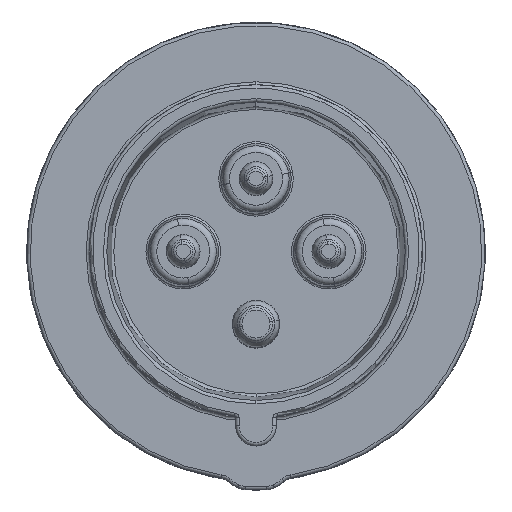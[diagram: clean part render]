
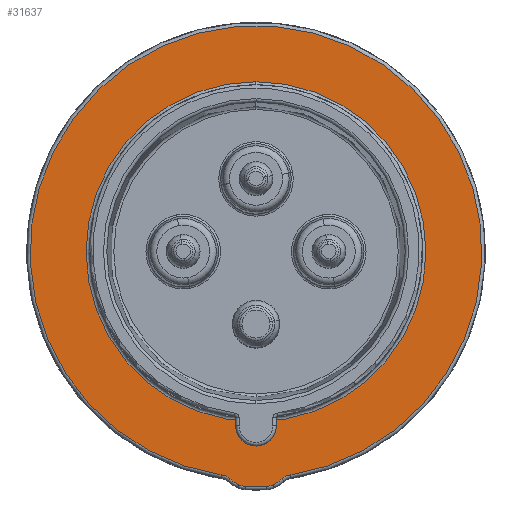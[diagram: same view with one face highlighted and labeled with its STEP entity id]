
A CAD part, top view. The second image highlights one B-rep face of the part: STEP entity #31637.
In plain terms, the highlighted planar face has unit normal (0, 0, 1).
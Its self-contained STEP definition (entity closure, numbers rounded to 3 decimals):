
#1106=CARTESIAN_POINT('',(5.364,-35.269,-36.5));
#1107=DIRECTION('',(0.,0.,1.));
#1108=DIRECTION('',(-0.15,0.989,0.));
#1109=AXIS2_PLACEMENT_3D('',#1106,#1107,#1108);
#1111=CARTESIAN_POINT('',(0.,-29.2,-36.5));
#1112=DIRECTION('',(0.,0.,-1.));
#1113=DIRECTION('',(0.662,-0.749,0.));
#1114=AXIS2_PLACEMENT_3D('',#1111,#1112,#1113);
#1116=CARTESIAN_POINT('',(1.443,-32.168,-36.5));
#1117=DIRECTION('',(0.,0.,-1.));
#1118=DIRECTION('',(0.437,-0.899,0.));
#1119=AXIS2_PLACEMENT_3D('',#1116,#1117,#1118);
#1121=CARTESIAN_POINT('',(0.,0.,-36.5));
#1122=DIRECTION('',(0.,0.,-1.));
#1123=DIRECTION('',(0.045,-0.999,0.));
#1124=AXIS2_PLACEMENT_3D('',#1121,#1122,#1123);
#1126=CARTESIAN_POINT('',(-1.443,-32.168,-36.5));
#1127=DIRECTION('',(0.,0.,-1.));
#1128=DIRECTION('',(-0.045,-0.999,0.));
#1129=AXIS2_PLACEMENT_3D('',#1126,#1127,#1128);
#1131=CARTESIAN_POINT('',(0.,-29.2,-36.5));
#1132=DIRECTION('',(0.,0.,-1.));
#1133=DIRECTION('',(-0.437,-0.899,0.));
#1134=AXIS2_PLACEMENT_3D('',#1131,#1132,#1133);
#1136=CARTESIAN_POINT('',(-5.364,-35.269,-36.5));
#1137=DIRECTION('',(0.,0.,1.));
#1138=DIRECTION('',(0.662,0.749,0.));
#1139=AXIS2_PLACEMENT_3D('',#1136,#1137,#1138);
#1141=CARTESIAN_POINT('',(0.,0.,-36.5));
#1142=DIRECTION('',(0.,0.,-1.));
#1143=DIRECTION('',(-0.15,-0.989,0.));
#1144=AXIS2_PLACEMENT_3D('',#1141,#1142,#1143);
#1146=CARTESIAN_POINT('',(0.,0.,-36.5));
#1147=DIRECTION('',(0.,0.,-1.));
#1148=DIRECTION('',(0.,-1.,0.));
#1149=AXIS2_PLACEMENT_3D('',#1146,#1147,#1148);
#1151=CARTESIAN_POINT('',(0.,0.,-36.5));
#1152=DIRECTION('',(0.,0.,-1.));
#1153=DIRECTION('',(0.,1.,0.));
#1154=AXIS2_PLACEMENT_3D('',#1151,#1152,#1153);
#27160=CARTESIAN_POINT('',(0.,-25.1,-36.5));
#27161=CARTESIAN_POINT('',(0.,25.1,-36.5));
#27162=VERTEX_POINT('',#27160);
#27163=VERTEX_POINT('',#27161);
#27202=CARTESIAN_POINT('',(5.018,-32.996,-36.5));
#27203=CARTESIAN_POINT('',(3.841,-33.546,-36.5));
#27204=VERTEX_POINT('',#27202);
#27205=VERTEX_POINT('',#27203);
#27208=CARTESIAN_POINT('',(2.537,-34.416,-36.5));
#27209=VERTEX_POINT('',#27208);
#27212=CARTESIAN_POINT('',(1.555,-34.665,-36.5));
#27213=VERTEX_POINT('',#27212);
#27216=CARTESIAN_POINT('',(-1.555,-34.665,-36.5));
#27217=VERTEX_POINT('',#27216);
#27220=CARTESIAN_POINT('',(-2.537,-34.416,-36.5));
#27221=VERTEX_POINT('',#27220);
#27224=CARTESIAN_POINT('',(-3.841,-33.546,-36.5));
#27225=VERTEX_POINT('',#27224);
#27228=CARTESIAN_POINT('',(-5.018,-32.996,-36.5));
#27229=VERTEX_POINT('',#27228);
#31610=CARTESIAN_POINT('',(0.,0.,-36.5));
#31611=DIRECTION('',(0.,0.,-1.));
#31612=DIRECTION('',(0.,-1.,0.));
#31613=AXIS2_PLACEMENT_3D('',#31610,#31611,#31612);
#31614=PLANE('45',#31613);
#31616=ORIENTED_EDGE('1772',*,*,#31615,.T.);
#31618=ORIENTED_EDGE('1774',*,*,#31617,.T.);
#31620=ORIENTED_EDGE('1776',*,*,#31619,.T.);
#31622=ORIENTED_EDGE('1778',*,*,#31621,.T.);
#31624=ORIENTED_EDGE('1780',*,*,#31623,.T.);
#31626=ORIENTED_EDGE('1782',*,*,#31625,.T.);
#31628=ORIENTED_EDGE('1784',*,*,#31627,.T.);
#31630=ORIENTED_EDGE('1786',*,*,#31629,.T.);
#31631=EDGE_LOOP('45',(#31616,#31618,#31620,#31622,#31624,#31626,#31628,
#31630));
#31632=FACE_OUTER_BOUND('45',#31631,.F.);
#31633=ORIENTED_EDGE('1749',*,*,#31576,.F.);
#31634=ORIENTED_EDGE('1751',*,*,#31597,.F.);
#31635=EDGE_LOOP('45',(#31633,#31634));
#31636=FACE_BOUND('45',#31635,.F.);
#1110=CIRCLE('1772',#1109,2.3);
#1115=CIRCLE('1774',#1114,5.8);
#1120=CIRCLE('1776',#1119,2.5);
#1125=CIRCLE('1778',#1124,34.7);
#1130=CIRCLE('1780',#1129,2.5);
#1135=CIRCLE('1782',#1134,5.8);
#1140=CIRCLE('1784',#1139,2.3);
#1145=CIRCLE('1786',#1144,33.375);
#1150=CIRCLE('1749',#1149,25.1);
#1155=CIRCLE('1751',#1154,25.1);
#31576=EDGE_CURVE('1749',#27162,#27163,#1150,.T.);
#31597=EDGE_CURVE('1751',#27163,#27162,#1155,.T.);
#31615=EDGE_CURVE('1772',#27204,#27205,#1110,.T.);
#31617=EDGE_CURVE('1774',#27205,#27209,#1115,.T.);
#31619=EDGE_CURVE('1776',#27209,#27213,#1120,.T.);
#31621=EDGE_CURVE('1778',#27213,#27217,#1125,.T.);
#31623=EDGE_CURVE('1780',#27217,#27221,#1130,.T.);
#31625=EDGE_CURVE('1782',#27221,#27225,#1135,.T.);
#31627=EDGE_CURVE('1784',#27225,#27229,#1140,.T.);
#31629=EDGE_CURVE('1786',#27229,#27204,#1145,.T.);
#31637=ADVANCED_FACE('45',(#31632,#31636),#31614,.F.);
